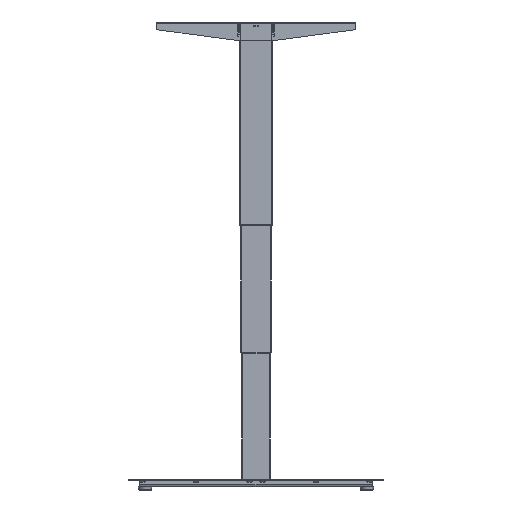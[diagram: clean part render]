
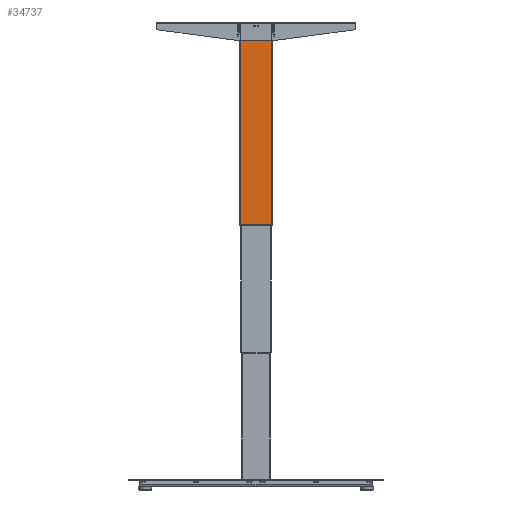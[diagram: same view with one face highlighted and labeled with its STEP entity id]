
A CAD part, front view. The second image highlights one B-rep face of the part: STEP entity #34737.
In plain terms, the highlighted planar face has unit normal (0, -1, 0).
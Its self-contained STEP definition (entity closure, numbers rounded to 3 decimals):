
#2586=CIRCLE('',#38947,0.5);
#2587=CIRCLE('',#38948,0.5);
#2588=CIRCLE('',#38949,0.5);
#2589=CIRCLE('',#38950,0.5);
#9697=ORIENTED_EDGE('',*,*,#16199,.T.);
#9698=ORIENTED_EDGE('',*,*,#16158,.F.);
#9699=ORIENTED_EDGE('',*,*,#16196,.F.);
#9700=ORIENTED_EDGE('',*,*,#16195,.F.);
#9701=ORIENTED_EDGE('',*,*,#16200,.F.);
#9702=ORIENTED_EDGE('',*,*,#16201,.F.);
#9703=ORIENTED_EDGE('',*,*,#16202,.F.);
#9704=ORIENTED_EDGE('',*,*,#16203,.F.);
#9705=ORIENTED_EDGE('',*,*,#16204,.F.);
#9706=ORIENTED_EDGE('',*,*,#16205,.F.);
#9707=ORIENTED_EDGE('',*,*,#16206,.F.);
#9708=ORIENTED_EDGE('',*,*,#16207,.F.);
#16158=EDGE_CURVE('',#21218,#21217,#25249,.T.);
#16195=EDGE_CURVE('',#21252,#21245,#25270,.T.);
#16196=EDGE_CURVE('',#21245,#21218,#25271,.T.);
#16199=EDGE_CURVE('',#21252,#21217,#25273,.T.);
#16200=EDGE_CURVE('',#21253,#21254,#25274,.T.);
#16201=EDGE_CURVE('',#21255,#21253,#2586,.T.);
#16202=EDGE_CURVE('',#21256,#21255,#25275,.T.);
#16203=EDGE_CURVE('',#21257,#21256,#2587,.T.);
#16204=EDGE_CURVE('',#21258,#21257,#25276,.T.);
#16205=EDGE_CURVE('',#21259,#21258,#2588,.T.);
#16206=EDGE_CURVE('',#21260,#21259,#25277,.T.);
#16207=EDGE_CURVE('',#21254,#21260,#2589,.T.);
#21217=VERTEX_POINT('',#61215);
#21218=VERTEX_POINT('',#61217);
#21245=VERTEX_POINT('',#61279);
#21252=VERTEX_POINT('',#61292);
#21253=VERTEX_POINT('',#61301);
#21254=VERTEX_POINT('',#61302);
#21255=VERTEX_POINT('',#61304);
#21256=VERTEX_POINT('',#61306);
#21257=VERTEX_POINT('',#61308);
#21258=VERTEX_POINT('',#61310);
#21259=VERTEX_POINT('',#61312);
#21260=VERTEX_POINT('',#61314);
#25249=LINE('',#61218,#29041);
#25270=LINE('',#61293,#29062);
#25271=LINE('',#61295,#29063);
#25273=LINE('',#61299,#29065);
#25274=LINE('',#61300,#29066);
#25275=LINE('',#61305,#29067);
#25276=LINE('',#61309,#29068);
#25277=LINE('',#61313,#29069);
#29041=VECTOR('',#48011,1000.);
#29062=VECTOR('',#48072,1000.);
#29063=VECTOR('',#48075,1000.);
#29065=VECTOR('',#48081,1000.);
#29066=VECTOR('',#48082,1000.);
#29067=VECTOR('',#48085,1000.);
#29068=VECTOR('',#48088,1000.);
#29069=VECTOR('',#48091,1000.);
#31077=EDGE_LOOP('',(#9697,#9698,#9699,#9700));
#31078=EDGE_LOOP('',(#9701,#9702,#9703,#9704,#9705,#9706,#9707,#9708));
#32699=FACE_BOUND('',#31077,.T.);
#32700=FACE_BOUND('',#31078,.T.);
#33534=PLANE('',#38946);
#34737=ADVANCED_FACE('',(#32699,#32700),#33534,.F.);
#38946=AXIS2_PLACEMENT_3D('',#61298,#48079,#48080);
#38947=AXIS2_PLACEMENT_3D('',#61303,#48083,#48084);
#38948=AXIS2_PLACEMENT_3D('',#61307,#48086,#48087);
#38949=AXIS2_PLACEMENT_3D('',#61311,#48089,#48090);
#38950=AXIS2_PLACEMENT_3D('',#61315,#48092,#48093);
#48011=DIRECTION('',(1.,0.,0.));
#48072=DIRECTION('',(-1.,0.,0.));
#48075=DIRECTION('',(0.,0.,1.));
#48079=DIRECTION('',(0.,1.,0.));
#48080=DIRECTION('',(-1.,0.,0.));
#48081=DIRECTION('',(0.,0.,1.));
#48082=DIRECTION('',(0.,0.,1.));
#48083=DIRECTION('',(0.,-1.,0.));
#48084=DIRECTION('',(1.,0.,0.));
#48085=DIRECTION('',(1.,0.,0.));
#48086=DIRECTION('',(0.,-1.,0.));
#48087=DIRECTION('',(1.,0.,0.));
#48088=DIRECTION('',(0.,0.,-1.));
#48089=DIRECTION('',(0.,-1.,0.));
#48090=DIRECTION('',(1.,0.,0.));
#48091=DIRECTION('',(-1.,0.,0.));
#48092=DIRECTION('',(0.,-1.,0.));
#48093=DIRECTION('',(1.,0.,0.));
#61215=CARTESIAN_POINT('',(42.5,-30.,1233.7));
#61217=CARTESIAN_POINT('',(-42.5,-30.,1233.7));
#61218=CARTESIAN_POINT('',(42.5,-30.,1233.7));
#61279=CARTESIAN_POINT('',(-42.5,-30.,688.7));
#61292=CARTESIAN_POINT('',(42.5,-30.,688.7));
#61293=CARTESIAN_POINT('',(-42.5,-30.,688.7));
#61295=CARTESIAN_POINT('',(-42.5,-30.,688.7));
#61298=CARTESIAN_POINT('',(-42.5,-30.,688.7));
#61299=CARTESIAN_POINT('',(42.5,-30.,688.7));
#61300=CARTESIAN_POINT('',(7.,-30.,1227.7));
#61301=CARTESIAN_POINT('',(7.,-30.,1223.7));
#61302=CARTESIAN_POINT('',(7.,-30.,1227.7));
#61303=CARTESIAN_POINT('',(6.5,-30.,1223.7));
#61304=CARTESIAN_POINT('',(6.5,-30.,1223.2));
#61305=CARTESIAN_POINT('',(6.5,-30.,1223.2));
#61306=CARTESIAN_POINT('',(-6.5,-30.,1223.2));
#61307=CARTESIAN_POINT('',(-6.5,-30.,1223.7));
#61308=CARTESIAN_POINT('',(-7.,-30.,1223.7));
#61309=CARTESIAN_POINT('',(-7.,-30.,1223.7));
#61310=CARTESIAN_POINT('',(-7.,-30.,1227.7));
#61311=CARTESIAN_POINT('',(-6.5,-30.,1227.7));
#61312=CARTESIAN_POINT('',(-6.5,-30.,1228.2));
#61313=CARTESIAN_POINT('',(-6.5,-30.,1228.2));
#61314=CARTESIAN_POINT('',(6.5,-30.,1228.2));
#61315=CARTESIAN_POINT('',(6.5,-30.,1227.7));
